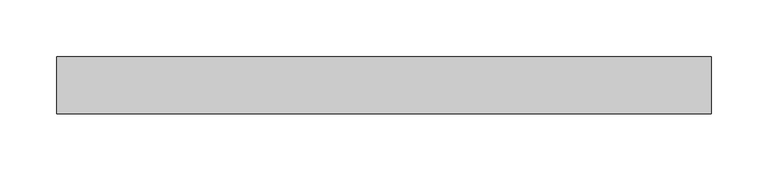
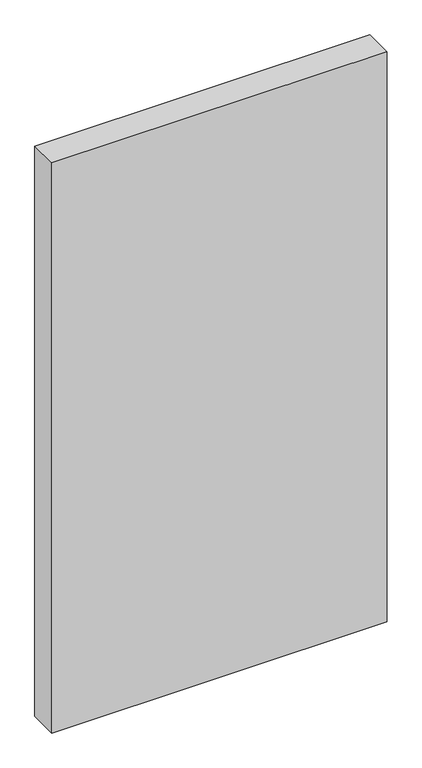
"""IFC4 building model written with IfcOpenShell, lengths in millimetres: plate geometry, Системная панель : Стекло(50мм)."""

from ifc_helpers import new_model, si_unit, origin, origin_with_axes, place, context, project, spatial, polyline, outline, extrude, source, transform, mapped, element, save


def plate_b985795c(model_context):
    return source(origin(), model_context, "Body", "SweptSolid", [
        extrude(outline(polyline([(288.0, -25.0), (-288.0, -25.0), (-288.0, 25.0), (288.0, 25.0), (288.0, -25.0)])), origin_with_axes(), (0.0, 0.0, 1.0), 1035.0),
    ])


if __name__ == "__main__":
    model = new_model("IFC4")
    model_context = context("Model", 3, world=origin())
    ifc_project = project(units=[si_unit("LENGTHUNIT", "METRE", prefix="MILLI")], contexts=[model_context])
    site = spatial("IfcSite", under=ifc_project)
    building = spatial("IfcBuilding", under=site)
    placement = place(None, origin())
    plate_shape = plate_b985795c(model_context)
    element("IfcPlate", 1, ObjectType="Системная панель : Стекло(50мм)", at=placement, inside=building, context=model_context, shape_type="MappedRepresentation", body=[
        mapped(plate_shape, transform((0.0, 0.0, 0.0), x_axis=(1.0, 0.0, 0.0), y_axis=(0.0, 1.0, 0.0), z_axis=(0.0, 0.0, 1.0))),
    ])
    save(model, "model.ifc")
